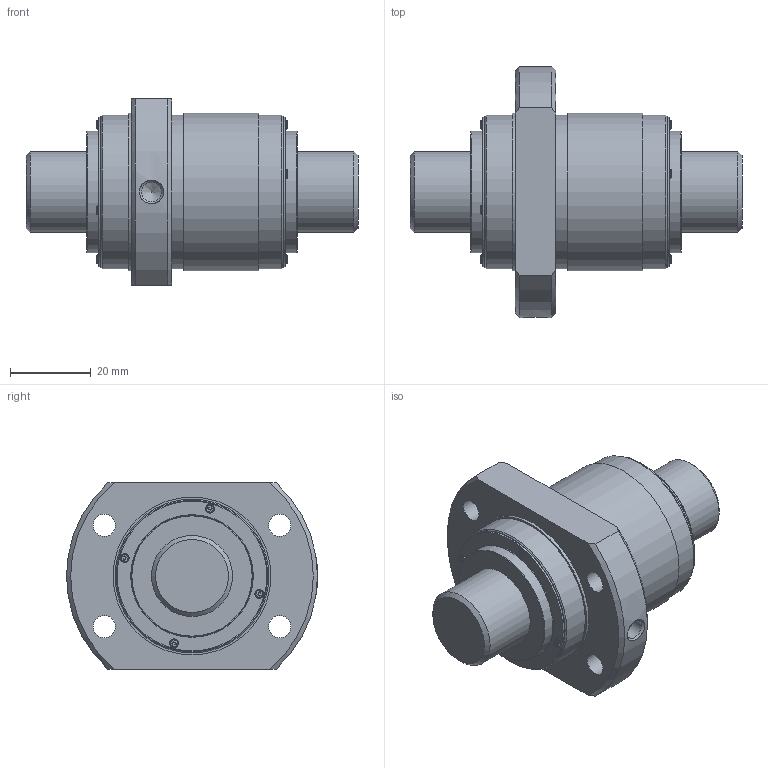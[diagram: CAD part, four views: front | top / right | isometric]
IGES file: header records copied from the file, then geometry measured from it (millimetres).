
Start section: Data from Parasolid IGES Translator 26.0.171, Copyright(c) 2006 Siemens PLM Software. All Rights Reserved.
Global section: file name: BLK2020-3.6ZZ+82LC7T_000.igs; native system: By Siemens PLM Incorporated; preprocessor: XPlus GENERIC/IGES 26.0.171; author: Noname; organization: Noname; date: 20250611.062850; units: millimetre
Bounding box: 82 x 62 x 46 mm (x, y, z)
Surface area: 20876.7 mm2 (no closed solid volume)
Topology: 0 solids, 0 shells, 215 faces, 1089 edges, 1016 vertices
Faces by surface type: extrusion 127, revolution 88
